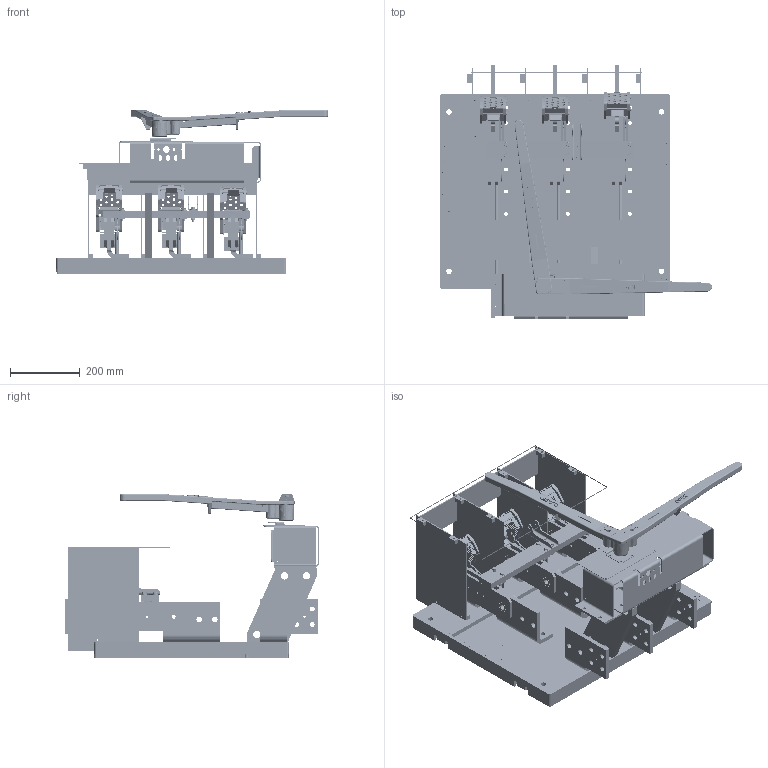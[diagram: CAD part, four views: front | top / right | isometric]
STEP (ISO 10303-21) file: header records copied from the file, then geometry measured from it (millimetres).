
FILE_DESCRIPTION(/* description */ (''),/* implementation_level */ '2;1');
FILE_NAME(/* name */ 'H:\switches\3d-templates\catalog-switches-iges-files\CATALOG-VL3610.stp',/* time_stamp */ '2022-03-23T14:23:23-05:00',/* author */ ('MKingston'),/* organization */ (''),/* preprocessor_version */ 'ST-DEVELOPER v18.1',/* originating_system */ 'Autodesk Inventor 2022',/* authorisation */ '');
FILE_SCHEMA (('AUTOMOTIVE_DESIGN { 1 0 10303 214 3 1 1 }'));
Products named in the file (50): catalog-VL3610; 277; 669-D; 669-C; 669-E; CATALOG-2000amp-blade-assy; 69-AL; 69-AR; 67-fc3; 69-gc3; 67-j; 69-M; ANSI/ASME B18.7 - T 0.252 x 17/32; ANSI/ASME B18.7 - T 0.188 x 17/32; 235-b; CATALOG-57-qj-arc-chute-assy; 50-QLX; 50-QRX; 363-da; 363-da_MIR; 57-QJT; 57-QJB; 57-QJS; 57-QJSB; 57-QJST; ANSI B18.6.3 - 8-32 UNC - 3; ANSI B18.2.2 - 8 - 32; ANSI B18.6.4 - No. 8 - 32 - 3/8; 230-a; 255-z; 820-fw3; 246-a; 820-bw1; 223-d-transparent; 221-RP,R3; 255-bha; 255-c; 178-c; 672-ha; 661-A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
Assembly tree (115 placements, depth 3):
  catalog-VL3610
    277
    669-D  x3
    669-C  x3
    669-E  x3
    CATALOG-2000amp-blade-assy  x3
      69-AL
      69-AR
      67-fc3
      69-gc3
      67-j
      69-M
      ANSI/ASME B18.7 - T 0.252 x 17/32
      ANSI/ASME B18.7 - T 0.188 x 17/32
    235-b
    CATALOG-57-qj-arc-chute-assy  x3
      50-QLX
      50-QRX
      363-da
      363-da_MIR
      57-QJT
      57-QJB
      57-QJS
      57-QJSB
      57-QJST
      ANSI B18.6.3 - 8-32 UNC - 3
      ANSI B18.2.2 - 8 - 32
      ANSI B18.6.4 - No. 8 - 32 - 3/8
    230-a
    255-bha  x4
    255-z
    820-fw3
    246-a  x2
    820-bw1
    223-d-transparent
    221-RP,R3
    255-c
    178-c  x8
    178-b  x8
    672-ha
    661-A  x3
    Bolted Connection
      ANSI B18.22.1 - 1/4 - narrow - Type A  x6
      ASME B18.21.1 - 1/4. Carbon Steel, ITLWTB(1)  x6
      ANSI/ASME B18.2.1 - 1/4-20 UNC - 1.25, HBI  x6
    Bolted Connection_1
      ANSI B18.22.1 - 1/4 - narrow - Type A  x4
      ASME B18.21.1 - 1/4. Carbon Steel, ITLWTB(1)  x4
      ANSI/ASME B18.2.1 - 1/4-20 UNC - 1.5, HBI  x2
      ANSI B18.2.2 - 1/4 - 20, HNI  x2
    223-FE
    223-d-transparent-red
Bounding box: 779.41 x 726.77 x 469.37 mm (x, y, z)
Volume: 15856231 mm3; surface area: 3934873.2 mm2
Topology: 176 solids, 177 shells, 6628 faces, 17048 edges, 11098 vertices
Faces by surface type: plane 3293, cylinder 1854, cone 819, bspline 448, torus 172, sphere 42
Full cylindrical faces by diameter (mm): 1.702 x8, 3.175 x4, 3.302 x8, 3.454 x4, 3.683 x8, 3.759 x12, 3.962 x4, 4.166 x24, 4.305 x42, 4.496 x24, 4.762 x4, 4.775 x11, 4.801 x8, 4.902 x14, 4.915 x24, 4.978 x5, 5.556 x3, 5.791 x6, 6.35 x48, 6.401 x9, 6.528 x74, 6.604 x8, 6.858 x18, 7.137 x10, 7.144 x12, 7.798 x2, 7.938 x21, 8.077 x3, 8.331 x2, 8.731 x2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
Entity records: 102832 total; most frequent: CARTESIAN_POINT 26240, ORIENTED_EDGE 15504, DIRECTION 15325, EDGE_CURVE 7760, AXIS2_PLACEMENT_3D 5405, VERTEX_POINT 5062, LINE 4515, VECTOR 4515
